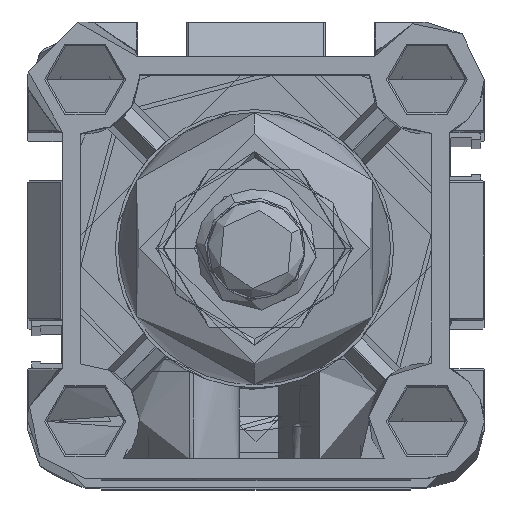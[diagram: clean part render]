
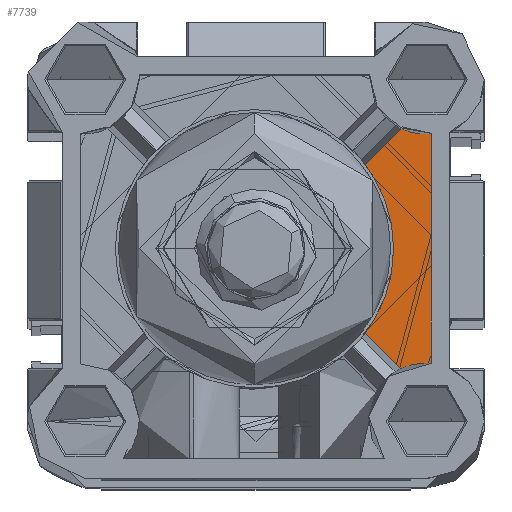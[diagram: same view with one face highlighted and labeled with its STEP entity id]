
A CAD part, top view. The second image highlights one B-rep face of the part: STEP entity #7739.
In plain terms, the highlighted planar face has unit normal (0, 0, 1) as drawn and (0, 0, -1) by its records, which use the part's own axes.
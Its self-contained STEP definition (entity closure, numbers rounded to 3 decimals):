
#81 = LINE ( 'NONE', #10918, #21565 ) ;
#860 = VERTEX_POINT ( 'NONE', #12011 ) ;
#1860 = CARTESIAN_POINT ( 'NONE',  ( 4., 60.5, 33. ) ) ;
#1970 = DIRECTION ( 'NONE',  ( 0., 0., 1. ) ) ;
#2041 = CARTESIAN_POINT ( 'NONE',  ( 32.25, 32.25, 33. ) ) ;
#2047 = DIRECTION ( 'NONE',  ( 0., 0., 1. ) ) ;
#2085 = DIRECTION ( 'NONE',  ( -1., 0., 0. ) ) ;
#2091 = DIRECTION ( 'NONE',  ( -1., 0., 0. ) ) ;
#2836 = ORIENTED_EDGE ( 'NONE', *, *, #22882, .T. ) ;
#3620 = CIRCLE ( 'NONE', #23284, 9.25 ) ;
#4304 = EDGE_CURVE ( 'NONE', #23493, #7250, #8725, .T. ) ;
#5117 = AXIS2_PLACEMENT_3D ( 'NONE', #26771, #26803, #26847 ) ;
#6418 = LINE ( 'NONE', #16397, #35455 ) ;
#7250 = VERTEX_POINT ( 'NONE', #31913 ) ;
#7739 = ADVANCED_FACE ( 'NONE', ( #18421 ), #17095, .T. ) ;
#8725 = CIRCLE ( 'NONE', #13655, 23. ) ;
#9123 = VERTEX_POINT ( 'NONE', #11974 ) ;
#10067 = DIRECTION ( 'NONE',  ( 0.707, -0.707, 0. ) ) ;
#10918 = CARTESIAN_POINT ( 'NONE',  ( 8.021, 52.169, 33. ) ) ;
#11974 = CARTESIAN_POINT ( 'NONE',  ( 8.123, 12.433, 33. ) ) ;
#12011 = CARTESIAN_POINT ( 'NONE',  ( 3., 13.333, 33. ) ) ;
#12106 = VERTEX_POINT ( 'NONE', #33257 ) ;
#12118 = CARTESIAN_POINT ( 'NONE',  ( 13.975, 46.215, 33. ) ) ;
#13655 = AXIS2_PLACEMENT_3D ( 'NONE', #2041, #2047, #2085 ) ;
#13938 = CARTESIAN_POINT ( 'NONE',  ( 3., 32.301, 33. ) ) ;
#15663 = DIRECTION ( 'NONE',  ( 0., 1., 0. ) ) ;
#15989 = DIRECTION ( 'NONE',  ( -0.707, -0.707, 0. ) ) ;
#16397 = CARTESIAN_POINT ( 'NONE',  ( 11.049, 15.359, 33. ) ) ;
#17095 = PLANE ( 'NONE',  #20391 ) ;
#17902 = VERTEX_POINT ( 'NONE', #22359 ) ;
#17987 = CIRCLE ( 'NONE', #5117, 23. ) ;
#18223 = EDGE_CURVE ( 'NONE', #7250, #35898, #17987, .T. ) ;
#18421 = FACE_OUTER_BOUND ( 'NONE', #30769, .T. ) ;
#18548 = EDGE_CURVE ( 'NONE', #9123, #860, #19809, .T. ) ;
#18852 = EDGE_CURVE ( 'NONE', #17902, #12106, #3620, .T. ) ;
#19676 = CARTESIAN_POINT ( 'NONE',  ( 13.975, 18.285, 33. ) ) ;
#19809 = CIRCLE ( 'NONE', #29594, 9.386 ) ;
#19843 = ORIENTED_EDGE ( 'NONE', *, *, #18223, .T. ) ;
#20391 = AXIS2_PLACEMENT_3D ( 'NONE', #21384, #21469, #21508 ) ;
#20551 = ORIENTED_EDGE ( 'NONE', *, *, #18548, .T. ) ;
#21130 = ORIENTED_EDGE ( 'NONE', *, *, #30800, .T. ) ;
#21384 = CARTESIAN_POINT ( 'NONE',  ( 14.041, 12.194, 33. ) ) ;
#21469 = DIRECTION ( 'NONE',  ( 0., 0., -1. ) ) ;
#21508 = DIRECTION ( 'NONE',  ( -1., 0., 0. ) ) ;
#21565 = VECTOR ( 'NONE', #10067, 1000. ) ;
#22359 = CARTESIAN_POINT ( 'NONE',  ( 3., 51.304, 33. ) ) ;
#22439 = LINE ( 'NONE', #13938, #29001 ) ;
#22882 = EDGE_CURVE ( 'NONE', #860, #17902, #22439, .T. ) ;
#23284 = AXIS2_PLACEMENT_3D ( 'NONE', #1860, #1970, #2091 ) ;
#23493 = VERTEX_POINT ( 'NONE', #12118 ) ;
#25440 = EDGE_CURVE ( 'NONE', #35898, #9123, #6418, .T. ) ;
#26771 = CARTESIAN_POINT ( 'NONE',  ( 32.25, 32.25, 33. ) ) ;
#26803 = DIRECTION ( 'NONE',  ( 0., 0., 1. ) ) ;
#26847 = DIRECTION ( 'NONE',  ( -1., 0., 0. ) ) ;
#28757 = ORIENTED_EDGE ( 'NONE', *, *, #18852, .T. ) ;
#29001 = VECTOR ( 'NONE', #15663, 1000. ) ;
#29594 = AXIS2_PLACEMENT_3D ( 'NONE', #32210, #32252, #32255 ) ;
#30769 = EDGE_LOOP ( 'NONE', ( #21130, #35055, #19843, #34033, #20551, #2836, #28757 ) ) ;
#30800 = EDGE_CURVE ( 'NONE', #12106, #23493, #81, .T. ) ;
#31913 = CARTESIAN_POINT ( 'NONE',  ( 9.25, 32.25, 33. ) ) ;
#32210 = CARTESIAN_POINT ( 'NONE',  ( 4., 4., 33. ) ) ;
#32252 = DIRECTION ( 'NONE',  ( 0., 0., 1. ) ) ;
#32255 = DIRECTION ( 'NONE',  ( -1., 0., 0. ) ) ;
#33257 = CARTESIAN_POINT ( 'NONE',  ( 8.021, 52.169, 33. ) ) ;
#34033 = ORIENTED_EDGE ( 'NONE', *, *, #25440, .T. ) ;
#35055 = ORIENTED_EDGE ( 'NONE', *, *, #4304, .T. ) ;
#35455 = VECTOR ( 'NONE', #15989, 1000. ) ;
#35898 = VERTEX_POINT ( 'NONE', #19676 ) ;
